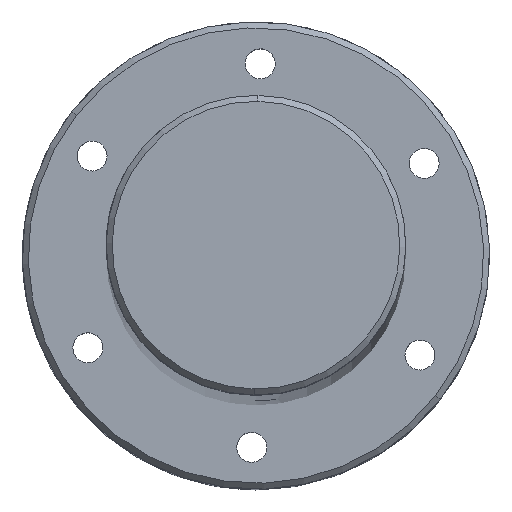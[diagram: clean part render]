
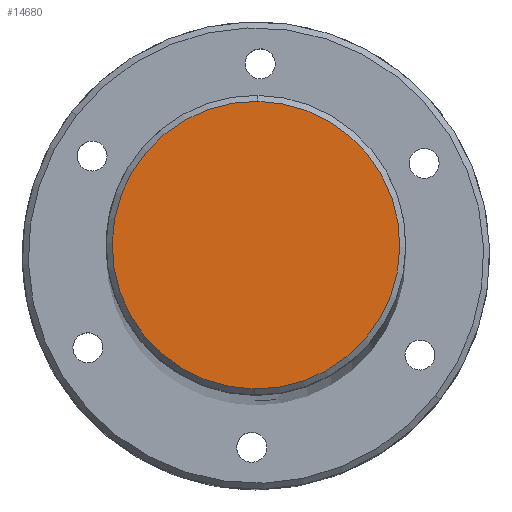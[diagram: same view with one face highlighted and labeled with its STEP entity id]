
A CAD part, top view. The second image highlights one B-rep face of the part: STEP entity #14680.
In plain terms, the highlighted planar face has unit normal (0, 0, 1) as drawn and (-1, 0, 0) by its records, which use the part's own axes.
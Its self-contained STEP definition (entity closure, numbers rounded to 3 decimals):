
#603 = CIRCLE ( 'NONE', #14845, 24. ) ;
#1159 = CARTESIAN_POINT ( 'NONE',  ( 0., 0., 0. ) ) ;
#1317 = CARTESIAN_POINT ( 'NONE',  ( 0., 0., 0. ) ) ;
#2864 = DIRECTION ( 'NONE',  ( 0., 0., -1. ) ) ;
#4518 = PLANE ( 'NONE',  #5333 ) ;
#5333 = AXIS2_PLACEMENT_3D ( 'NONE', #1317, #13062, #2864 ) ;
#7035 = ORIENTED_EDGE ( 'NONE', *, *, #20183, .T. ) ;
#7440 = DIRECTION ( 'NONE',  ( -1., 0., 0. ) ) ;
#8969 = AXIS2_PLACEMENT_3D ( 'NONE', #14072, #7440, #19211 ) ;
#9821 = VERTEX_POINT ( 'NONE', #17068 ) ;
#12648 = EDGE_CURVE ( 'NONE', #9821, #18873, #16574, .T. ) ;
#12829 = DIRECTION ( 'NONE',  ( -1., 0., 0. ) ) ;
#13062 = DIRECTION ( 'NONE',  ( 1., 0., 0. ) ) ;
#13328 = EDGE_LOOP ( 'NONE', ( #17756, #7035 ) ) ;
#14072 = CARTESIAN_POINT ( 'NONE',  ( 0., 0., 0. ) ) ;
#14680 = ADVANCED_FACE ( 'NONE', ( #18814 ), #4518, .F. ) ;
#14845 = AXIS2_PLACEMENT_3D ( 'NONE', #1159, #12829, #16407 ) ;
#16407 = DIRECTION ( 'NONE',  ( 0., 0., -1. ) ) ;
#16574 = CIRCLE ( 'NONE', #8969, 24. ) ;
#17068 = CARTESIAN_POINT ( 'NONE',  ( 0., 0., -24. ) ) ;
#17756 = ORIENTED_EDGE ( 'NONE', *, *, #12648, .T. ) ;
#18062 = CARTESIAN_POINT ( 'NONE',  ( 0., 0., 24. ) ) ;
#18814 = FACE_OUTER_BOUND ( 'NONE', #13328, .T. ) ;
#18873 = VERTEX_POINT ( 'NONE', #18062 ) ;
#19211 = DIRECTION ( 'NONE',  ( 0., 0., -1. ) ) ;
#20183 = EDGE_CURVE ( 'NONE', #18873, #9821, #603, .T. ) ;
